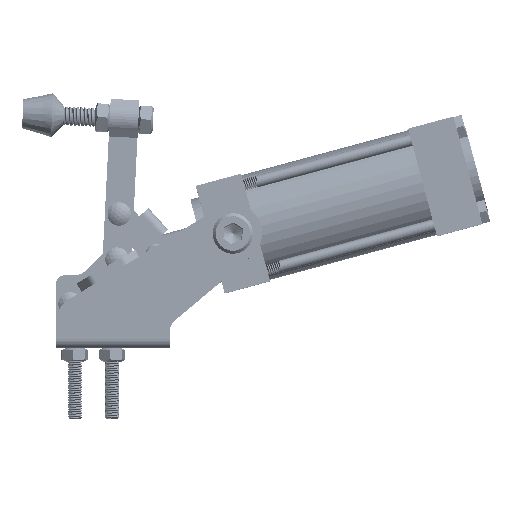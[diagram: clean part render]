
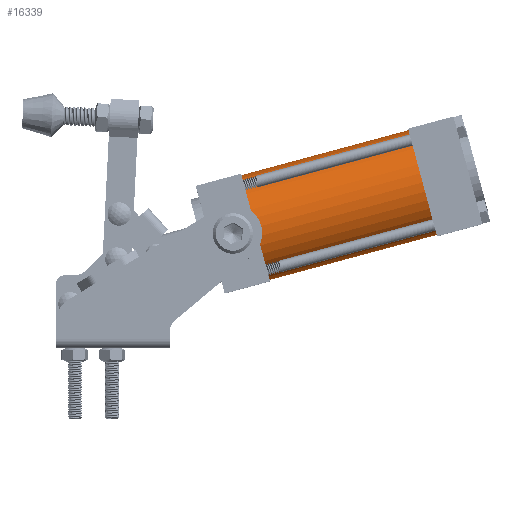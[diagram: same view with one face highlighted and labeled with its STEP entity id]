
A CAD part, top view. The second image highlights one B-rep face of the part: STEP entity #16339.
In plain terms, the highlighted cylindrical face has radius 18.5 mm (diameter 37 mm), a full revolution.
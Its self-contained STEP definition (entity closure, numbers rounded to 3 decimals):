
#1176=FACE_OUTER_BOUND('',#2042,.T.);
#2042=EDGE_LOOP('',(#11179,#11180,#11181,#11182,#11183,#11184));
#3052=CIRCLE('',#17589,18.5);
#3053=CIRCLE('',#17590,18.5);
#3054=CIRCLE('',#17591,18.5);
#3055=CIRCLE('',#17592,18.5);
#4285=LINE('',#24053,#5509);
#5509=VECTOR('',#18870,18.5);
#6810=VERTEX_POINT('',#24049);
#6811=VERTEX_POINT('',#24050);
#6812=VERTEX_POINT('',#24052);
#6813=VERTEX_POINT('',#24054);
#8608=EDGE_CURVE('',#6810,#6811,#3052,.T.);
#8609=EDGE_CURVE('',#6811,#6812,#4285,.T.);
#8610=EDGE_CURVE('',#6813,#6812,#3053,.T.);
#8611=EDGE_CURVE('',#6812,#6813,#3054,.T.);
#8612=EDGE_CURVE('',#6811,#6810,#3055,.T.);
#11179=ORIENTED_EDGE('',*,*,#8608,.T.);
#11180=ORIENTED_EDGE('',*,*,#8609,.T.);
#11181=ORIENTED_EDGE('',*,*,#8610,.F.);
#11182=ORIENTED_EDGE('',*,*,#8611,.F.);
#11183=ORIENTED_EDGE('',*,*,#8609,.F.);
#11184=ORIENTED_EDGE('',*,*,#8612,.T.);
#16115=CYLINDRICAL_SURFACE('',#17588,18.5);
#16339=ADVANCED_FACE('',(#1176),#16115,.T.);
#17588=AXIS2_PLACEMENT_3D('',#24048,#18866,#18867);
#17589=AXIS2_PLACEMENT_3D('',#24051,#18868,#18869);
#17590=AXIS2_PLACEMENT_3D('',#24055,#18871,#18872);
#17591=AXIS2_PLACEMENT_3D('',#24056,#18873,#18874);
#17592=AXIS2_PLACEMENT_3D('',#24057,#18875,#18876);
#18866=DIRECTION('center_axis',(0.,0.,-1.));
#18867=DIRECTION('ref_axis',(-1.,0.,0.));
#18868=DIRECTION('center_axis',(0.,0.,1.));
#18869=DIRECTION('ref_axis',(1.,0.,0.));
#18870=DIRECTION('',(0.,0.,1.));
#18871=DIRECTION('center_axis',(0.,0.,1.));
#18872=DIRECTION('ref_axis',(1.,0.,0.));
#18873=DIRECTION('center_axis',(0.,0.,1.));
#18874=DIRECTION('ref_axis',(1.,0.,0.));
#18875=DIRECTION('center_axis',(0.,0.,1.));
#18876=DIRECTION('ref_axis',(1.,0.,0.));
#24048=CARTESIAN_POINT('Origin',(0.,0.,78.));
#24049=CARTESIAN_POINT('',(-18.5,0.,19.));
#24050=CARTESIAN_POINT('',(18.5,0.,19.));
#24051=CARTESIAN_POINT('Origin',(0.,0.,19.));
#24052=CARTESIAN_POINT('',(18.5,0.,78.));
#24053=CARTESIAN_POINT('',(18.5,0.,78.));
#24054=CARTESIAN_POINT('',(-18.5,0.,78.));
#24055=CARTESIAN_POINT('Origin',(0.,0.,78.));
#24056=CARTESIAN_POINT('Origin',(0.,0.,78.));
#24057=CARTESIAN_POINT('Origin',(0.,0.,19.));
